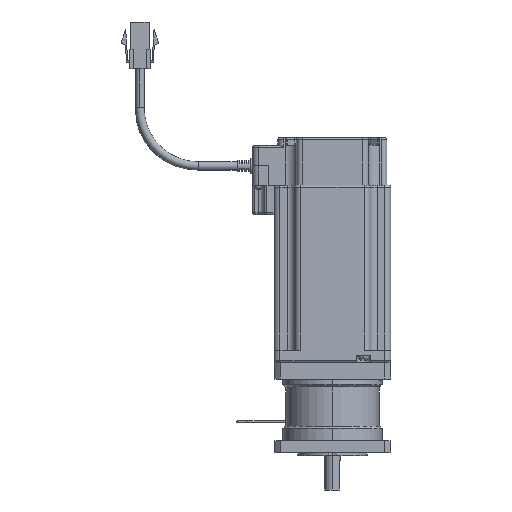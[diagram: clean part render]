
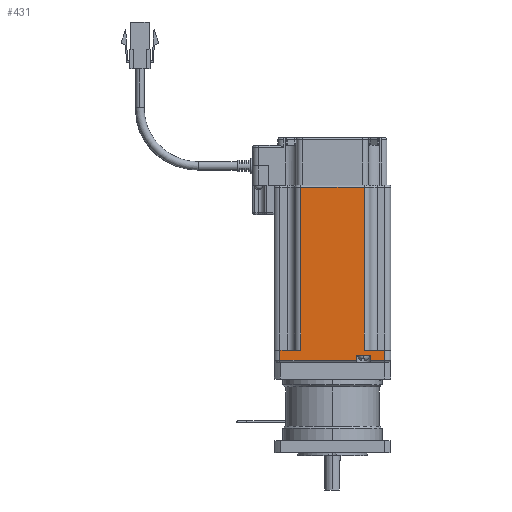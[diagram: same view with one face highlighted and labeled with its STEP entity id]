
A CAD part, left-side view. The second image highlights one B-rep face of the part: STEP entity #431.
In plain terms, the highlighted planar face has unit normal (-1, 0, 0) as drawn and (1, 0, 0) by its records, which use the part's own axes.
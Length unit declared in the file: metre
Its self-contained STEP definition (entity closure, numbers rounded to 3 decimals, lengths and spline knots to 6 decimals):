
#431 = ADVANCED_FACE ( 'NONE', ( #5567 ), #24683, .T. ) ;
#1352 = EDGE_CURVE ( 'NONE', #2191, #2197, #32273, .T. ) ;
#1361 = EDGE_CURVE ( 'NONE', #2197, #2148, #32287, .T. ) ;
#1363 = EDGE_CURVE ( 'NONE', #2148, #2205, #32291, .T. ) ;
#1364 = EDGE_CURVE ( 'NONE', #2205, #2203, #32292, .T. ) ;
#1367 = EDGE_CURVE ( 'NONE', #2203, #2201, #32298, .T. ) ;
#1369 = EDGE_CURVE ( 'NONE', #2201, #2204, #32302, .T. ) ;
#1370 = EDGE_CURVE ( 'NONE', #2204, #2161, #32303, .T. ) ;
#1372 = EDGE_CURVE ( 'NONE', #2161, #2206, #32283, .T. ) ;
#1380 = EDGE_CURVE ( 'NONE', #2206, #2212, #32318, .T. ) ;
#1416 = EDGE_CURVE ( 'NONE', #2235, #2191, #32380, .T. ) ;
#1418 = EDGE_CURVE ( 'NONE', #2232, #2212, #32383, .T. ) ;
#1419 = EDGE_CURVE ( 'NONE', #2235, #2232, #32388, .T. ) ;
#2148 = VERTEX_POINT ( 'NONE', #31808 ) ;
#2161 = VERTEX_POINT ( 'NONE', #31821 ) ;
#2191 = VERTEX_POINT ( 'NONE', #31851 ) ;
#2197 = VERTEX_POINT ( 'NONE', #31857 ) ;
#2201 = VERTEX_POINT ( 'NONE', #31861 ) ;
#2203 = VERTEX_POINT ( 'NONE', #31863 ) ;
#2204 = VERTEX_POINT ( 'NONE', #31864 ) ;
#2205 = VERTEX_POINT ( 'NONE', #31865 ) ;
#2206 = VERTEX_POINT ( 'NONE', #31866 ) ;
#2212 = VERTEX_POINT ( 'NONE', #31872 ) ;
#2232 = VERTEX_POINT ( 'NONE', #31892 ) ;
#2235 = VERTEX_POINT ( 'NONE', #31895 ) ;
#5567 = FACE_OUTER_BOUND ( 'NONE', #13867, .T. ) ;
#6672 = AXIS2_PLACEMENT_3D ( 'NONE', #24678, #24686, #24687 ) ;
#13867 = EDGE_LOOP ( 'NONE', ( #39152, #39153, #39154, #39155, #39156, #39157, #39158, #39159, #39160, #39161, #39162, #39163 ) ) ;
#24678 = CARTESIAN_POINT ( 'NONE',  ( 0.092176, 0.155692, -0.212 ) ) ;
#24683 = PLANE ( 'NONE',  #6672 ) ;
#24686 = DIRECTION ( 'NONE',  ( 1., 0., 0. ) ) ;
#24687 = DIRECTION ( 'NONE',  ( 0., 1., 0. ) ) ;
#31488 = CARTESIAN_POINT ( 'NONE',  ( 0.092176, 0.185692, -0.2057 ) ) ;
#31490 = DIRECTION ( 'NONE',  ( 0., -1., 0. ) ) ;
#31507 = CARTESIAN_POINT ( 'NONE',  ( 0.092176, 0.185692, -0.211 ) ) ;
#31508 = DIRECTION ( 'NONE',  ( 0., 1., 0. ) ) ;
#31512 = CARTESIAN_POINT ( 'NONE',  ( 0.092176, 0.158692, -0.1665 ) ) ;
#31513 = DIRECTION ( 'NONE',  ( 0., 0., -1. ) ) ;
#31514 = CARTESIAN_POINT ( 'NONE',  ( 0.092176, 0.205292, -0.1665 ) ) ;
#31515 = DIRECTION ( 'NONE',  ( 0., 0., -1. ) ) ;
#31519 = CARTESIAN_POINT ( 'NONE',  ( 0.092176, 0.197892, -0.1665 ) ) ;
#31520 = DIRECTION ( 'NONE',  ( 0., 0., 1. ) ) ;
#31525 = CARTESIAN_POINT ( 'NONE',  ( 0.092176, 0.185692, -0.2085 ) ) ;
#31526 = DIRECTION ( 'NONE',  ( 0., 1., 0. ) ) ;
#31527 = DIRECTION ( 'NONE',  ( 0., 0., 1. ) ) ;
#31531 = CARTESIAN_POINT ( 'NONE',  ( 0.092176, 0.185692, -0.211 ) ) ;
#31532 = DIRECTION ( 'NONE',  ( 0., 1., 0. ) ) ;
#31534 = CARTESIAN_POINT ( 'NONE',  ( 0.092176, 0.212692, -0.1665 ) ) ;
#31551 = DIRECTION ( 'NONE',  ( 0., -1., 0. ) ) ;
#31553 = CARTESIAN_POINT ( 'NONE',  ( 0.092176, 0.185692, -0.2057 ) ) ;
#31628 = CARTESIAN_POINT ( 'NONE',  ( 0.092176, 0.169392, -0.1665 ) ) ;
#31634 = DIRECTION ( 'NONE',  ( 0., 0., -1. ) ) ;
#31636 = DIRECTION ( 'NONE',  ( 0., 0., -1. ) ) ;
#31638 = CARTESIAN_POINT ( 'NONE',  ( 0.092176, 0.201992, -0.16335 ) ) ;
#31642 = CARTESIAN_POINT ( 'NONE',  ( 0.092176, 0.185692, -0.122 ) ) ;
#31644 = DIRECTION ( 'NONE',  ( 0., 1., 0. ) ) ;
#31808 = CARTESIAN_POINT ( 'NONE',  ( 0.092176, 0.158692, -0.211 ) ) ;
#31821 = CARTESIAN_POINT ( 'NONE',  ( 0.092176, 0.212692, -0.211 ) ) ;
#31851 = CARTESIAN_POINT ( 'NONE',  ( 0.092176, 0.169392, -0.2057 ) ) ;
#31857 = CARTESIAN_POINT ( 'NONE',  ( 0.092176, 0.158692, -0.2057 ) ) ;
#31861 = CARTESIAN_POINT ( 'NONE',  ( 0.092176, 0.205292, -0.2085 ) ) ;
#31863 = CARTESIAN_POINT ( 'NONE',  ( 0.092176, 0.197892, -0.2085 ) ) ;
#31864 = CARTESIAN_POINT ( 'NONE',  ( 0.092176, 0.205292, -0.211 ) ) ;
#31865 = CARTESIAN_POINT ( 'NONE',  ( 0.092176, 0.197892, -0.211 ) ) ;
#31866 = CARTESIAN_POINT ( 'NONE',  ( 0.092176, 0.212692, -0.2057 ) ) ;
#31872 = CARTESIAN_POINT ( 'NONE',  ( 0.092176, 0.201992, -0.2057 ) ) ;
#31892 = CARTESIAN_POINT ( 'NONE',  ( 0.092176, 0.201992, -0.122 ) ) ;
#31895 = CARTESIAN_POINT ( 'NONE',  ( 0.092176, 0.169392, -0.122 ) ) ;
#32273 = LINE ( 'NONE', #31488, #32276 ) ;
#32276 = VECTOR ( 'NONE', #31490, 1. ) ;
#32283 = LINE ( 'NONE', #31534, #32309 ) ;
#32287 = LINE ( 'NONE', #31512, #32290 ) ;
#32290 = VECTOR ( 'NONE', #31513, 1. ) ;
#32291 = LINE ( 'NONE', #31507, #32293 ) ;
#32292 = LINE ( 'NONE', #31519, #32295 ) ;
#32293 = VECTOR ( 'NONE', #31508, 1. ) ;
#32295 = VECTOR ( 'NONE', #31520, 1. ) ;
#32298 = LINE ( 'NONE', #31525, #32301 ) ;
#32301 = VECTOR ( 'NONE', #31526, 1. ) ;
#32302 = LINE ( 'NONE', #31514, #32304 ) ;
#32303 = LINE ( 'NONE', #31531, #32306 ) ;
#32304 = VECTOR ( 'NONE', #31515, 1. ) ;
#32306 = VECTOR ( 'NONE', #31532, 1. ) ;
#32309 = VECTOR ( 'NONE', #31527, 1. ) ;
#32318 = LINE ( 'NONE', #31553, #32322 ) ;
#32322 = VECTOR ( 'NONE', #31551, 1. ) ;
#32380 = LINE ( 'NONE', #31628, #32386 ) ;
#32383 = LINE ( 'NONE', #31638, #32389 ) ;
#32386 = VECTOR ( 'NONE', #31636, 1. ) ;
#32388 = LINE ( 'NONE', #31642, #32391 ) ;
#32389 = VECTOR ( 'NONE', #31634, 1. ) ;
#32391 = VECTOR ( 'NONE', #31644, 1. ) ;
#39152 = ORIENTED_EDGE ( 'NONE', *, *, #1380, .T. ) ;
#39153 = ORIENTED_EDGE ( 'NONE', *, *, #1418, .F. ) ;
#39154 = ORIENTED_EDGE ( 'NONE', *, *, #1419, .F. ) ;
#39155 = ORIENTED_EDGE ( 'NONE', *, *, #1416, .T. ) ;
#39156 = ORIENTED_EDGE ( 'NONE', *, *, #1352, .T. ) ;
#39157 = ORIENTED_EDGE ( 'NONE', *, *, #1361, .T. ) ;
#39158 = ORIENTED_EDGE ( 'NONE', *, *, #1363, .T. ) ;
#39159 = ORIENTED_EDGE ( 'NONE', *, *, #1364, .T. ) ;
#39160 = ORIENTED_EDGE ( 'NONE', *, *, #1367, .T. ) ;
#39161 = ORIENTED_EDGE ( 'NONE', *, *, #1369, .T. ) ;
#39162 = ORIENTED_EDGE ( 'NONE', *, *, #1370, .T. ) ;
#39163 = ORIENTED_EDGE ( 'NONE', *, *, #1372, .T. ) ;
